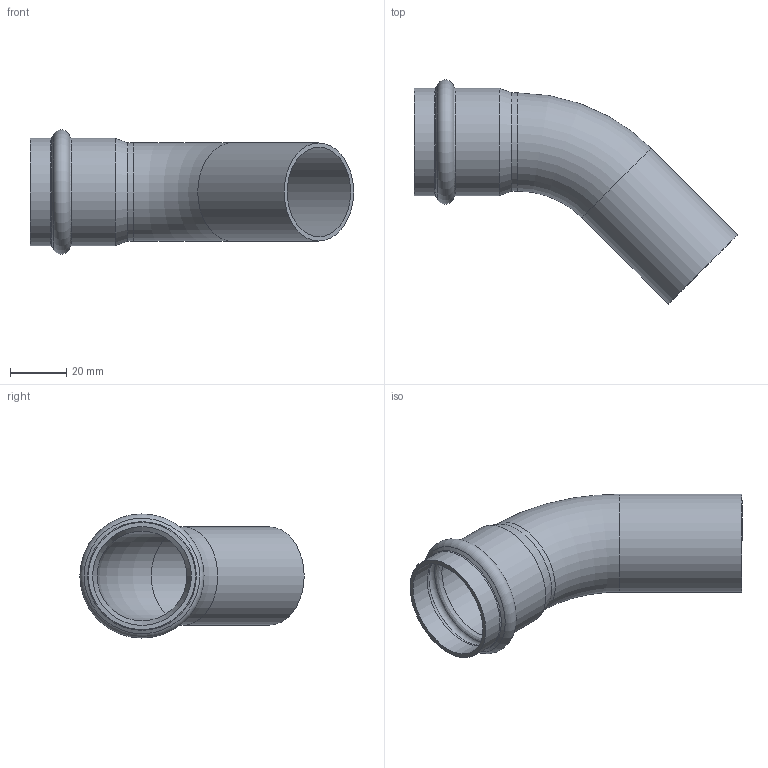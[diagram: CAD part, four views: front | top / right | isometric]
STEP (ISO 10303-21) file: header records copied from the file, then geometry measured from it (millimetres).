
FILE_DESCRIPTION((''),'2;1');
FILE_NAME('G:\Technics\CAD\Bauteile\035\6904035(1).stp','2008-02-28T14:08:37',('herberg'),(''),'Autodesk Inventor 2008','Autodesk Inventor 2008','');
FILE_SCHEMA(('AUTOMOTIVE_DESIGN { 1 0 10303 214 1 1 1 1 }'));
Length unit declared in the file: millimetre
Products named in the file (1): 6904035(1)
Bounding box: 115.24 x 79.99 x 44.29 mm (x, y, z)
Volume: 20074.1 mm3; surface area: 27095.6 mm2
Topology: 1 solids, 1 shells, 22 faces, 48 edges, 28 vertices
Faces by surface type: cylinder 8, torus 4, cone 4, bspline 4, plane 2
Full cylindrical faces by diameter (mm): 32 x2, 35 x2, 35.25 x2, 38.25 x2
Entity records: 634 total; most frequent: CARTESIAN_POINT 243, DIRECTION 82, ORIENTED_EDGE 44, EDGE_LOOP 44, AXIS2_PLACEMENT_3D 41, VERTEX_POINT 22, CIRCLE 22, EDGE_CURVE 22
